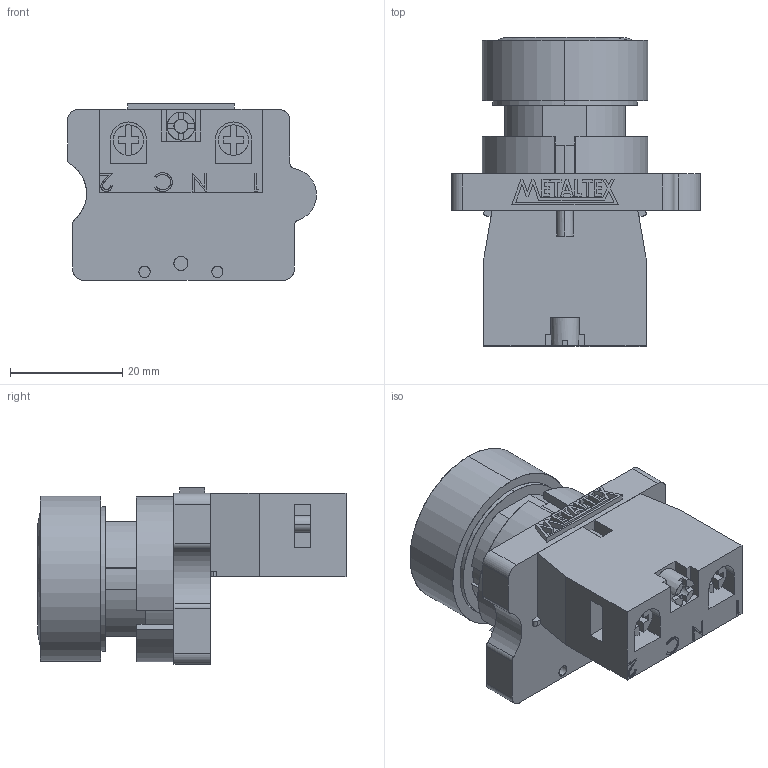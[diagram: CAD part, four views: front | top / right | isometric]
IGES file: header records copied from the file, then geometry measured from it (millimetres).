
Start section: SolidWorks IGES file using analytic representation for surfaces
Global section: file name: D:\X - Arquivos\PROEX\Empresas\P11 - METALTEX\01 - Produtos\IGES\Primeira remessa\P20AFR-R-1B.IGS; native system: SolidWorks 2012; preprocessor: SolidWorks 2012; author: Usuario; date: 180117.114730; units: millimetre
Bounding box: 44.44 x 55.17 x 31.5 mm (x, y, z)
Surface area: 11576.1 mm2 (no closed solid volume)
Topology: 0 solids, 0 shells, 344 faces, 3624 edges, 3622 vertices
Faces by surface type: bspline 272, revolution 72
